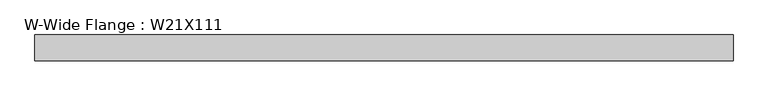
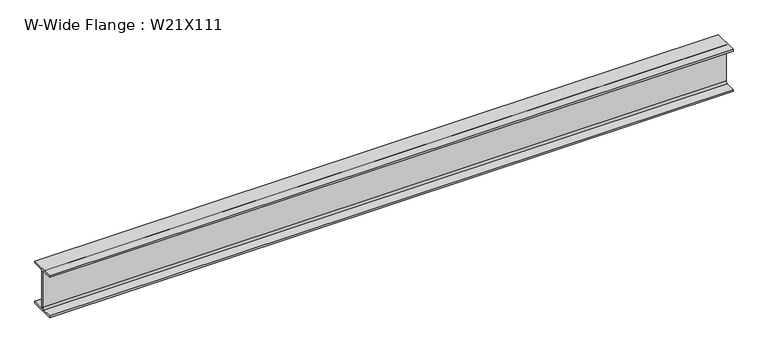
"""IFC4 building model written with IfcOpenShell, lengths in millimetres: beam geometry, W-Wide Flange : W21X111."""

from ifc_helpers import new_model, si_unit, point, frame, frame_2d, origin, place, context, project, spatial, polyline, circle_curve, trimmed, segment, composite_curve, outline, extrude, source, transform, mapped, element, save


def w_wide_flange_w21x111_51b1a384(model_context):
    return source(origin(), model_context, "Body", "SweptSolid", [
        extrude(outline(composite_curve([segment(polyline([(156.21, -250.825), (156.21, -273.05), (-156.21, -273.05), (-156.21, -250.825), (-29.21, -250.825)]), True, "CONTINUOUS"), segment(trimmed(circle_curve(frame_2d((-29.21, -228.6)), 22.225), [point((-29.21, -250.825))], [point((-6.985, -228.6))], True, "CARTESIAN"), True, "CONTINUOUS"), segment(polyline([(-6.985, -228.6), (-6.985, 228.6)]), True, "CONTINUOUS"), segment(trimmed(circle_curve(frame_2d((-29.21, 228.6)), 22.225), [point((-6.985, 228.6))], [point((-29.21, 250.825))], True, "CARTESIAN"), True, "CONTINUOUS"), segment(polyline([(-29.21, 250.825), (-156.21, 250.825), (-156.21, 273.05), (156.21, 273.05), (156.21, 250.825), (29.21, 250.825)]), True, "CONTINUOUS"), segment(trimmed(circle_curve(frame_2d((29.21, 228.6)), 22.225), [point((29.21, 250.825))], [point((6.985, 228.6))], True, "CARTESIAN"), True, "CONTINUOUS"), segment(polyline([(6.985, 228.6), (6.985, -228.6)]), True, "CONTINUOUS"), segment(trimmed(circle_curve(frame_2d((29.21, -228.6)), 22.225), [point((6.985, -228.6))], [point((29.21, -250.825))], True, "CARTESIAN"), True, "CONTINUOUS"), segment(polyline([(29.21, -250.825), (156.21, -250.825)]), True, "CONTINUOUS")], self_intersect=False)), frame((-4220.21, 0.0, 0.0), z_axis=(1.0, 0.0, 0.0), x_axis=(0.0, 1.0, 0.0)), (0.0, 0.0, 1.0), 8440.42),
    ])


if __name__ == "__main__":
    model = new_model("IFC4")
    model_context = context("Model", 3, world=origin())
    ifc_project = project(units=[si_unit("LENGTHUNIT", "METRE", prefix="MILLI")], contexts=[model_context])
    site = spatial("IfcSite", under=ifc_project)
    building = spatial("IfcBuilding", under=site)
    placement = place(None, origin())
    w_wide_flange_w21x111_shape = w_wide_flange_w21x111_51b1a384(model_context)
    element("IfcBeam", 1, ObjectType="W-Wide Flange : W21X111", at=placement, inside=building, context=model_context, shape_type="MappedRepresentation", body=[
        mapped(w_wide_flange_w21x111_shape, transform((0.0, 0.0, 0.0), x_axis=(1.0, 0.0, 0.0), y_axis=(0.0, 1.0, 0.0), z_axis=(0.0, 0.0, 1.0))),
    ])
    save(model, "model.ifc")
